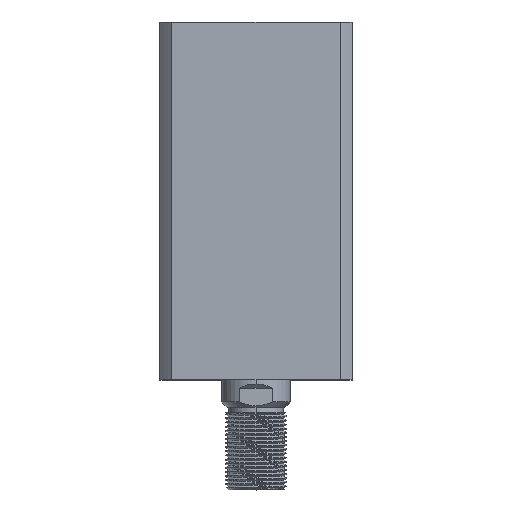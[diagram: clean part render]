
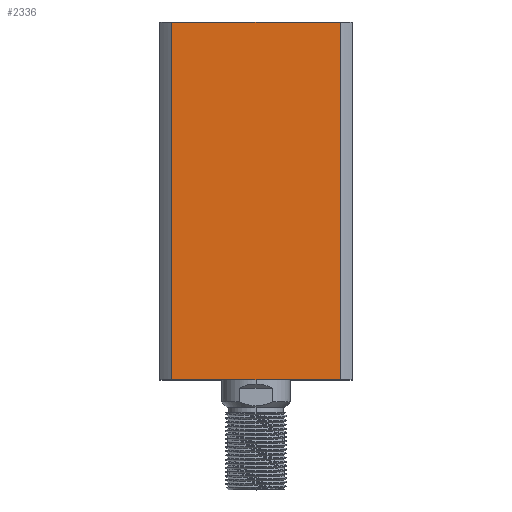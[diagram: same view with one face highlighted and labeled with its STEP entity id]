
A CAD part, top view. The second image highlights one B-rep face of the part: STEP entity #2336.
In plain terms, the highlighted planar face has unit normal (0, 0, 1) as drawn and (1, 0, 0) by its records, which use the part's own axes.
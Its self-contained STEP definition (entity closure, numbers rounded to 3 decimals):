
#320 = VERTEX_POINT ( 'NONE', #8863 ) ;
#559 = CARTESIAN_POINT ( 'NONE',  ( 35., 30.615, 300. ) ) ;
#691 = DIRECTION ( 'NONE',  ( -1., 0., 0. ) ) ;
#1269 = VECTOR ( 'NONE', #7766, 1000. ) ;
#1401 = LINE ( 'NONE', #2388, #9101 ) ;
#1644 = DIRECTION ( 'NONE',  ( 0., 0., 1. ) ) ;
#2069 = CARTESIAN_POINT ( 'NONE',  ( 35., -30.615, 0. ) ) ;
#2114 = CARTESIAN_POINT ( 'NONE',  ( 35., 30.615, 130. ) ) ;
#2336 = ADVANCED_FACE ( 'NONE', ( #9658 ), #13258, .F. ) ;
#2388 = CARTESIAN_POINT ( 'NONE',  ( 35., 35., 0. ) ) ;
#2433 = ORIENTED_EDGE ( 'NONE', *, *, #12540, .F. ) ;
#3213 = LINE ( 'NONE', #11935, #11264 ) ;
#3464 = DIRECTION ( 'NONE',  ( 0., 1., 0. ) ) ;
#3982 = DIRECTION ( 'NONE',  ( 0., 1., 0. ) ) ;
#4859 = EDGE_CURVE ( 'NONE', #13264, #320, #1401, .T. ) ;
#4949 = EDGE_CURVE ( 'NONE', #13264, #5203, #3213, .T. ) ;
#5133 = EDGE_LOOP ( 'NONE', ( #6551, #2433, #5991, #8104 ) ) ;
#5203 = VERTEX_POINT ( 'NONE', #13148 ) ;
#5904 = VERTEX_POINT ( 'NONE', #2114 ) ;
#5991 = ORIENTED_EDGE ( 'NONE', *, *, #4949, .F. ) ;
#6551 = ORIENTED_EDGE ( 'NONE', *, *, #10116, .F. ) ;
#6863 = LINE ( 'NONE', #559, #1269 ) ;
#7766 = DIRECTION ( 'NONE',  ( 0., 0., -1. ) ) ;
#8035 = DIRECTION ( 'NONE',  ( 0., 0., 1. ) ) ;
#8063 = AXIS2_PLACEMENT_3D ( 'NONE', #9001, #691, #8035 ) ;
#8104 = ORIENTED_EDGE ( 'NONE', *, *, #4859, .T. ) ;
#8863 = CARTESIAN_POINT ( 'NONE',  ( 35., 30.615, 0. ) ) ;
#8957 = LINE ( 'NONE', #12366, #11421 ) ;
#9001 = CARTESIAN_POINT ( 'NONE',  ( 35., 35., 130. ) ) ;
#9101 = VECTOR ( 'NONE', #3464, 1000. ) ;
#9658 = FACE_OUTER_BOUND ( 'NONE', #5133, .T. ) ;
#10116 = EDGE_CURVE ( 'NONE', #5904, #320, #6863, .T. ) ;
#11264 = VECTOR ( 'NONE', #1644, 1000. ) ;
#11421 = VECTOR ( 'NONE', #3982, 1000. ) ;
#11935 = CARTESIAN_POINT ( 'NONE',  ( 35., -30.615, 300. ) ) ;
#12366 = CARTESIAN_POINT ( 'NONE',  ( 35., 35., 130. ) ) ;
#12540 = EDGE_CURVE ( 'NONE', #5203, #5904, #8957, .T. ) ;
#13148 = CARTESIAN_POINT ( 'NONE',  ( 35., -30.615, 130. ) ) ;
#13258 = PLANE ( 'NONE',  #8063 ) ;
#13264 = VERTEX_POINT ( 'NONE', #2069 ) ;
